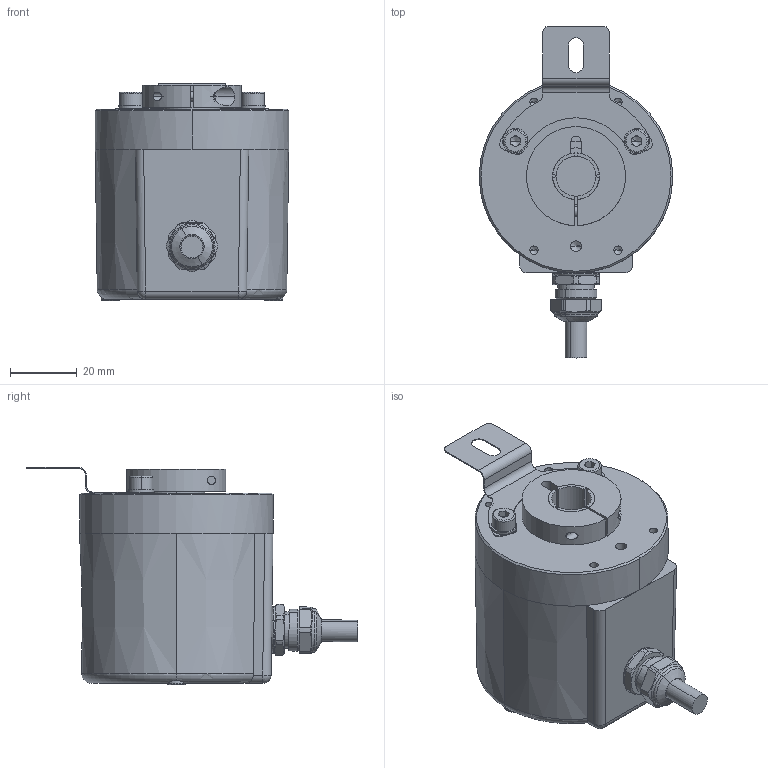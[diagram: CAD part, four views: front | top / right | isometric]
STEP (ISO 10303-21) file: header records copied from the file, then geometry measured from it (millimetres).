
FILE_DESCRIPTION (( 'STEP AP203' ), '1' );
FILE_NAME ('E58HS-ANA-251##-##-CB0.STEP', '2023-06-29T10:52:49', ( '' ), ( '' ), 'SwSTEP 2.0', 'SolidWorks 2021', '' );
FILE_SCHEMA (( 'CONFIG_CONTROL_DESIGN' ));
Length unit declared in the file: millimetre
Products named in the file (1): E58HS-ANA-251##-##-CB0
Bounding box: 58 x 99.44 x 65.1 mm (x, y, z)
Surface area: 25068.2 mm2 (no closed solid volume)
Topology: 0 solids, 14 shells, 425 faces, 977 edges, 587 vertices
Faces by surface type: plane 165, cylinder 152, cone 61, torus 43, sphere 4
Entity records: 12330 total; most frequent: CARTESIAN_POINT 2554, DIRECTION 2180, ORIENTED_EDGE 1898, EDGE_CURVE 951, AXIS2_PLACEMENT_3D 869, VERTEX_POINT 587, EDGE_LOOP 478, CIRCLE 443
